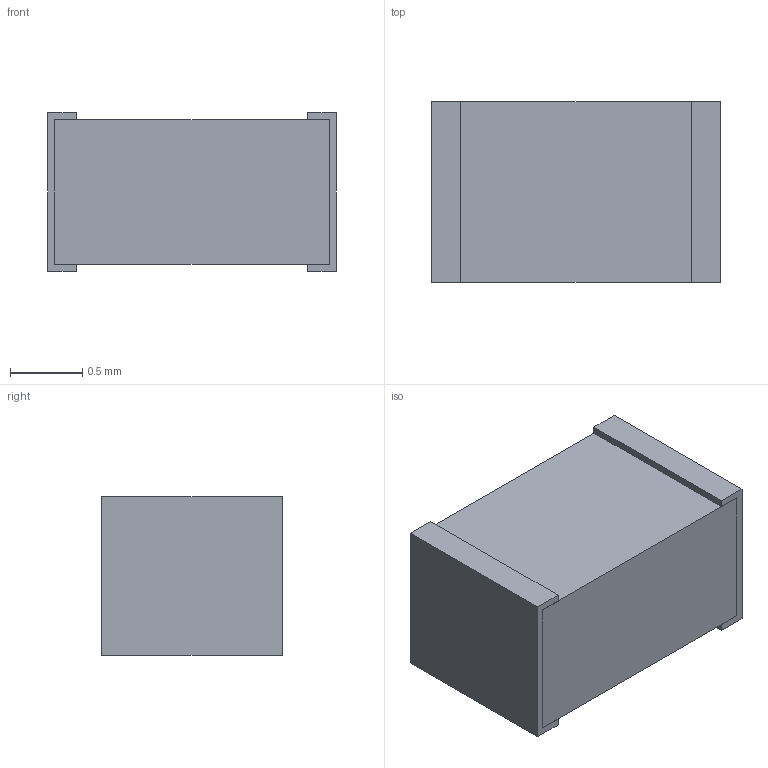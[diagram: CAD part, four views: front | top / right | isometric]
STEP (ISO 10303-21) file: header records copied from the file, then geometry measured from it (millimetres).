
FILE_DESCRIPTION(('STEP AP203'), '1');
FILE_NAME('0805-1', '', ('UNSPECIFIED'), ('UNSPECIFIED'), 'ASCON STEP Converter 1.6', 'ASCON Math Kernel', '');
FILE_SCHEMA(('CONFIG_CONTROL_DESIGN'));
Length unit declared in the file: millimetre
Bounding box: 2 x 1.25 x 1.1 mm (x, y, z)
Volume: 2.6 mm3; surface area: 18.6 mm2
Topology: 3 solids, 3 shells, 26 faces, 60 edges, 40 vertices
Faces by surface type: plane 26
Entity records: 988 total; most frequent: CARTESIAN_POINT 127, ORIENTED_EDGE 120, DIRECTION 114, EDGE_CURVE 60, LINE 60, VECTOR 60, VERTEX_POINT 40, COLOUR_RGB 29
